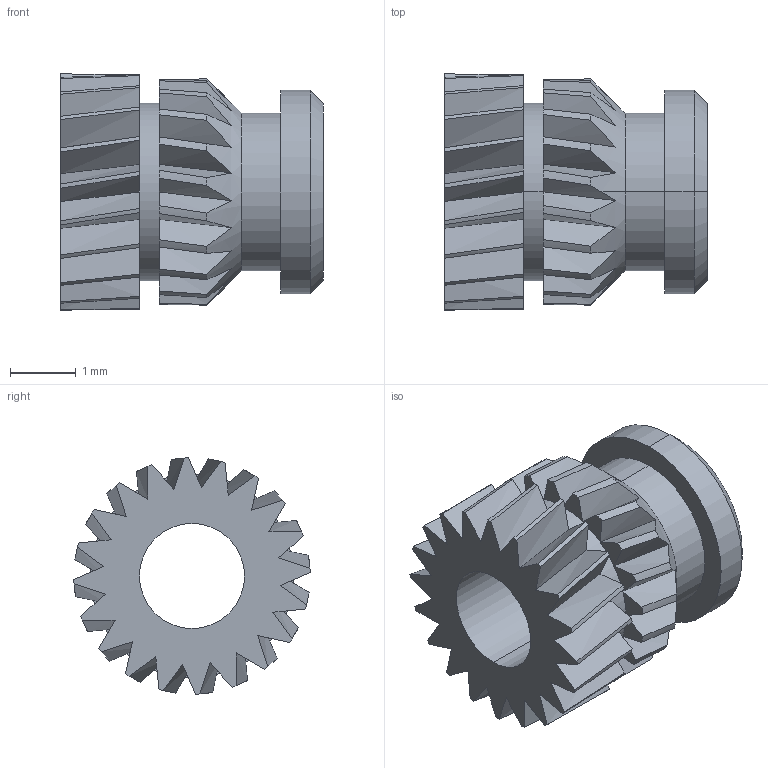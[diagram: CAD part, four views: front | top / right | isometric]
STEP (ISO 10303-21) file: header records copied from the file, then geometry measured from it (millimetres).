
FILE_DESCRIPTION (( 'STEP AP203' ), '1' );
FILE_NAME ('FSUK-HIS-M02.STEP', '2021-04-06T08:23:21', ( '' ), ( '' ), 'SwSTEP 2.0', 'SolidWorks 2021', '' );
FILE_SCHEMA (( 'CONFIG_CONTROL_DESIGN' ));
Length unit declared in the file: millimetre
Products named in the file (1): FSUK-HIS-M02
Bounding box: 4 x 3.6 x 3.6 mm (x, y, z)
Volume: 19.4 mm3; surface area: 97.8 mm2
Topology: 1 solids, 1 shells, 177 faces, 432 edges, 258 vertices
Faces by surface type: bspline 80, cylinder 48, plane 43, cone 6
Entity records: 19585 total; most frequent: CARTESIAN_POINT 16314, ORIENTED_EDGE 864, DIRECTION 482, EDGE_CURVE 432, VERTEX_POINT 258, AXIS2_PLACEMENT_3D 234, EDGE_LOOP 180, FACE_OUTER_BOUND 177
